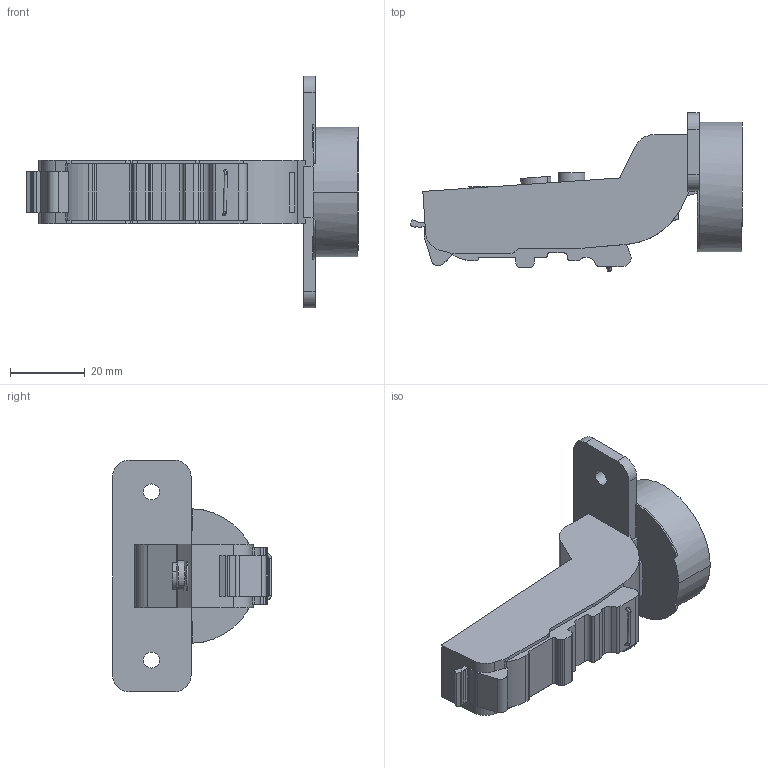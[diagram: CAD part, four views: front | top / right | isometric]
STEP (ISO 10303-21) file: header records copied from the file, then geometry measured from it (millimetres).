
FILE_DESCRIPTION (( 'STEP AP203' ), '1' );
FILE_NAME ('C81C875FAB-DTC3Dclose.STEP', '2023-06-09T05:22:25', ( 'Windows 蚚誧' ), ( '' ), 'SwSTEP 2.0', 'SolidWorks 2018', '' );
FILE_SCHEMA (( 'CONFIG_CONTROL_DESIGN' ));
Length unit declared in the file: millimetre
Products named in the file (1): C81C875FAB-DTC3Dclose
Bounding box: 88.89 x 42.51 x 62 mm (x, y, z)
Volume: 40416.6 mm3; surface area: 11405.6 mm2
Topology: 1 solids, 1 shells, 146 faces, 420 edges, 280 vertices
Faces by surface type: plane 69, cylinder 67, bspline 8, torus 2
Entity records: 5449 total; most frequent: CARTESIAN_POINT 1497, ORIENTED_EDGE 840, DIRECTION 800, EDGE_CURVE 420, VERTEX_POINT 280, AXIS2_PLACEMENT_3D 275, LINE 250, VECTOR 250
